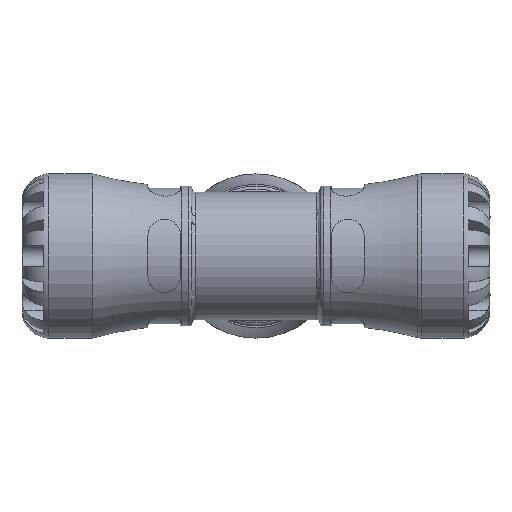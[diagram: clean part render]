
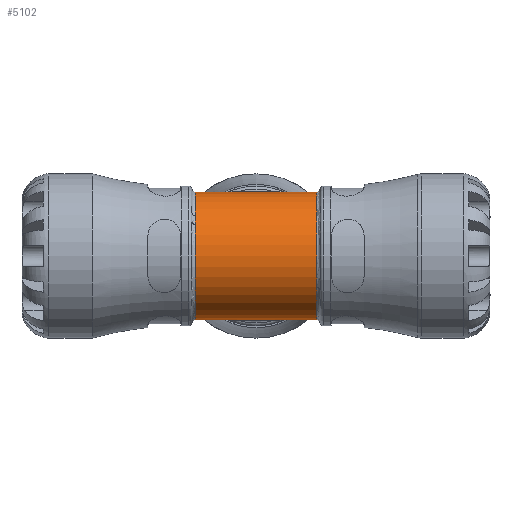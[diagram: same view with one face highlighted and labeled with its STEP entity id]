
A CAD part, front view. The second image highlights one B-rep face of the part: STEP entity #5102.
In plain terms, the highlighted cylindrical face has radius 18.326 mm (diameter 36.652 mm), a partial arc.
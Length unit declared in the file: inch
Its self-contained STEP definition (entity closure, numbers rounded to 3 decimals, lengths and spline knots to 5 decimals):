
#233=ELLIPSE('',#5265,1.02036,0.7215);
#234=ELLIPSE('',#5266,1.02036,0.7215);
#235=ELLIPSE('',#5267,1.02036,0.7215);
#236=ELLIPSE('',#5268,1.02036,0.7215);
#484=CYLINDRICAL_SURFACE('',#5587,0.7215);
#709=FACE_OUTER_BOUND('',#1002,.T.);
#1002=EDGE_LOOP('',(#4072,#4073,#4074,#4075,#4076,#4077,#4078,#4079));
#1242=CIRCLE('',#5453,0.7215);
#1243=CIRCLE('',#5454,0.7215);
#1247=CIRCLE('',#5459,0.7215);
#1248=CIRCLE('',#5460,0.7215);
#1974=VERTEX_POINT('',#7351);
#1975=VERTEX_POINT('',#7368);
#1976=VERTEX_POINT('',#7370);
#1977=VERTEX_POINT('',#7372);
#1978=VERTEX_POINT('',#7405);
#1979=VERTEX_POINT('',#7407);
#2133=VERTEX_POINT('',#8918);
#2136=VERTEX_POINT('',#8927);
#2473=EDGE_CURVE('',#1975,#1974,#233,.T.);
#2474=EDGE_CURVE('',#1976,#1975,#234,.T.);
#2476=EDGE_CURVE('',#1978,#1977,#235,.T.);
#2477=EDGE_CURVE('',#1979,#1978,#236,.T.);
#2721=EDGE_CURVE('',#2133,#1977,#1242,.T.);
#2722=EDGE_CURVE('',#1976,#2133,#1243,.T.);
#2726=EDGE_CURVE('',#2136,#1974,#1247,.T.);
#2727=EDGE_CURVE('',#1979,#2136,#1248,.T.);
#4072=ORIENTED_EDGE('',*,*,#2476,.T.);
#4073=ORIENTED_EDGE('',*,*,#2721,.F.);
#4074=ORIENTED_EDGE('',*,*,#2722,.F.);
#4075=ORIENTED_EDGE('',*,*,#2474,.T.);
#4076=ORIENTED_EDGE('',*,*,#2473,.T.);
#4077=ORIENTED_EDGE('',*,*,#2726,.F.);
#4078=ORIENTED_EDGE('',*,*,#2727,.F.);
#4079=ORIENTED_EDGE('',*,*,#2477,.T.);
#5102=ADVANCED_FACE('',(#709),#484,.T.);
#5265=AXIS2_PLACEMENT_3D('',#7369,#5893,#5894);
#5266=AXIS2_PLACEMENT_3D('',#7371,#5895,#5896);
#5267=AXIS2_PLACEMENT_3D('',#7406,#5897,#5898);
#5268=AXIS2_PLACEMENT_3D('',#7408,#5899,#5900);
#5453=AXIS2_PLACEMENT_3D('',#8920,#6352,#6353);
#5454=AXIS2_PLACEMENT_3D('',#8921,#6354,#6355);
#5459=AXIS2_PLACEMENT_3D('',#8929,#6364,#6365);
#5460=AXIS2_PLACEMENT_3D('',#8930,#6366,#6367);
#5587=AXIS2_PLACEMENT_3D('',#9919,#6684,#6685);
#5893=DIRECTION('center_axis',(0.707,-0.707,0.));
#5894=DIRECTION('ref_axis',(-0.707,-0.707,0.));
#5895=DIRECTION('center_axis',(-0.707,-0.707,0.));
#5896=DIRECTION('ref_axis',(-0.707,0.707,0.));
#5897=DIRECTION('center_axis',(-0.707,-0.707,0.));
#5898=DIRECTION('ref_axis',(-0.707,0.707,0.));
#5899=DIRECTION('center_axis',(0.707,-0.707,0.));
#5900=DIRECTION('ref_axis',(-0.707,-0.707,0.));
#6352=DIRECTION('center_axis',(-1.,0.,0.));
#6353=DIRECTION('ref_axis',(0.,1.,0.));
#6354=DIRECTION('center_axis',(-1.,0.,0.));
#6355=DIRECTION('ref_axis',(0.,1.,0.));
#6364=DIRECTION('center_axis',(1.,0.,0.));
#6365=DIRECTION('ref_axis',(0.,1.,0.));
#6366=DIRECTION('center_axis',(1.,0.,0.));
#6367=DIRECTION('ref_axis',(0.,1.,0.));
#6684=DIRECTION('center_axis',(1.,0.,0.));
#6685=DIRECTION('ref_axis',(0.,-1.,0.));
#7351=CARTESIAN_POINT('',(0.68508,0.68508,-0.22633));
#7368=CARTESIAN_POINT('',(0.,0.,-0.7215));
#7369=CARTESIAN_POINT('Origin',(0.,0.,
0.));
#7370=CARTESIAN_POINT('',(-0.68508,0.68508,-0.22633));
#7371=CARTESIAN_POINT('Origin',(0.,0.,0.));
#7372=CARTESIAN_POINT('',(-0.68508,0.68508,0.22633));
#7405=CARTESIAN_POINT('',(0.,0.,0.7215));
#7406=CARTESIAN_POINT('Origin',(0.,0.,0.));
#7407=CARTESIAN_POINT('',(0.68508,0.68508,0.22633));
#7408=CARTESIAN_POINT('Origin',(0.,0.,
0.));
#8918=CARTESIAN_POINT('',(-0.68508,-0.7215,0.));
#8920=CARTESIAN_POINT('Origin',(-0.68508,0.,0.));
#8921=CARTESIAN_POINT('Origin',(-0.68508,0.,0.));
#8927=CARTESIAN_POINT('',(0.68508,-0.7215,0.));
#8929=CARTESIAN_POINT('Origin',(0.68508,0.,0.));
#8930=CARTESIAN_POINT('Origin',(0.68508,0.,0.));
#9919=CARTESIAN_POINT('Origin',(0.36075,0.,0.));
